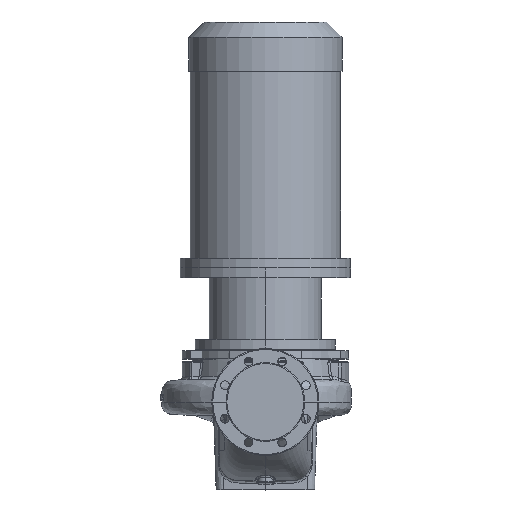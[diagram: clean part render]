
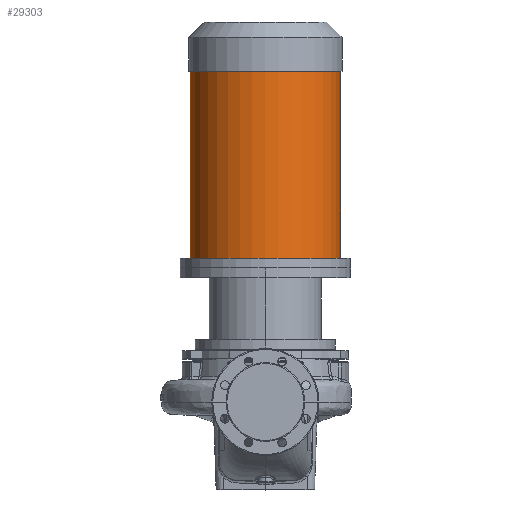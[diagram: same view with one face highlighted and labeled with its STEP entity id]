
A CAD part, top view. The second image highlights one B-rep face of the part: STEP entity #29303.
In plain terms, the highlighted cylindrical face has radius 154.5 mm (diameter 309 mm), a partial arc.
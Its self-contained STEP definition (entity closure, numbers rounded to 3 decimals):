
#761 = VERTEX_POINT ( 'NONE', #14595 ) ;
#1045 = CARTESIAN_POINT ( 'NONE',  ( 154.5, 275.8, 0. ) ) ;
#3547 = CARTESIAN_POINT ( 'NONE',  ( 0., 679.8, 0. ) ) ;
#5844 = ORIENTED_EDGE ( 'NONE', *, *, #23555, .F. ) ;
#7054 = DIRECTION ( 'NONE',  ( -1., 0., 0. ) ) ;
#8179 = ORIENTED_EDGE ( 'NONE', *, *, #57414, .T. ) ;
#8556 = CARTESIAN_POINT ( 'NONE',  ( -154.5, 295.8, 0. ) ) ;
#10124 = CARTESIAN_POINT ( 'NONE',  ( -154.5, 275.8, 0. ) ) ;
#10133 = DIRECTION ( 'NONE',  ( -1., 0., 0. ) ) ;
#10347 = CARTESIAN_POINT ( 'NONE',  ( 0., 275.8, 0. ) ) ;
#13961 = CYLINDRICAL_SURFACE ( 'NONE', #14623, 154.5 ) ;
#14595 = CARTESIAN_POINT ( 'NONE',  ( 154.5, 679.8, 0. ) ) ;
#14623 = AXIS2_PLACEMENT_3D ( 'NONE', #10347, #18759, #10133 ) ;
#15836 = ORIENTED_EDGE ( 'NONE', *, *, #53873, .F. ) ;
#16525 = EDGE_LOOP ( 'NONE', ( #15836, #8179, #57428, #5844 ) ) ;
#17091 = DIRECTION ( 'NONE',  ( -1., 0., 0. ) ) ;
#18759 = DIRECTION ( 'NONE',  ( 0., -1., 0. ) ) ;
#19659 = AXIS2_PLACEMENT_3D ( 'NONE', #53904, #54291, #7054 ) ;
#19997 = DIRECTION ( 'NONE',  ( 0., -1., 0. ) ) ;
#23555 = EDGE_CURVE ( 'NONE', #60194, #36905, #50929, .T. ) ;
#27525 = CARTESIAN_POINT ( 'NONE',  ( 154.5, 295.8, 0. ) ) ;
#29303 = ADVANCED_FACE ( 'NONE', ( #54425 ), #13961, .T. ) ;
#31885 = DIRECTION ( 'NONE',  ( 0., -1., 0. ) ) ;
#33182 = EDGE_CURVE ( 'NONE', #34603, #36905, #49726, .T. ) ;
#34603 = VERTEX_POINT ( 'NONE', #54613 ) ;
#36905 = VERTEX_POINT ( 'NONE', #8556 ) ;
#38784 = CIRCLE ( 'NONE', #43558, 154.5 ) ;
#43558 = AXIS2_PLACEMENT_3D ( 'NONE', #3547, #31885, #17091 ) ;
#47603 = LINE ( 'NONE', #1045, #53506 ) ;
#47854 = DIRECTION ( 'NONE',  ( 0., -1., 0. ) ) ;
#49726 = LINE ( 'NONE', #10124, #57818 ) ;
#50929 = CIRCLE ( 'NONE', #19659, 154.5 ) ;
#53506 = VECTOR ( 'NONE', #47854, 1000. ) ;
#53873 = EDGE_CURVE ( 'NONE', #761, #60194, #47603, .T. ) ;
#53904 = CARTESIAN_POINT ( 'NONE',  ( 0., 295.8, 0. ) ) ;
#54291 = DIRECTION ( 'NONE',  ( 0., -1., 0. ) ) ;
#54425 = FACE_OUTER_BOUND ( 'NONE', #16525, .T. ) ;
#54613 = CARTESIAN_POINT ( 'NONE',  ( -154.5, 679.8, 0. ) ) ;
#57414 = EDGE_CURVE ( 'NONE', #761, #34603, #38784, .T. ) ;
#57428 = ORIENTED_EDGE ( 'NONE', *, *, #33182, .T. ) ;
#57818 = VECTOR ( 'NONE', #19997, 1000. ) ;
#60194 = VERTEX_POINT ( 'NONE', #27525 ) ;
